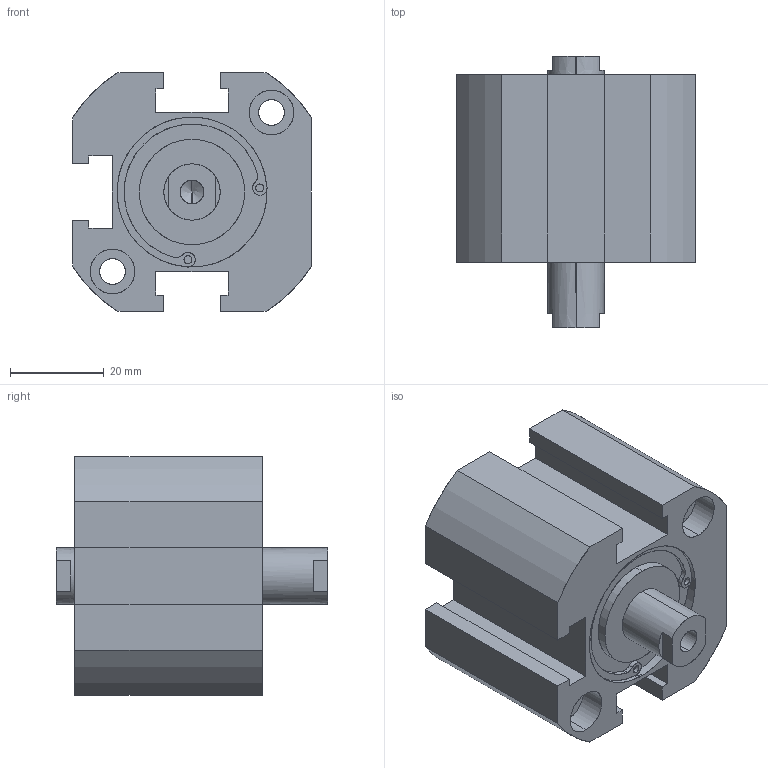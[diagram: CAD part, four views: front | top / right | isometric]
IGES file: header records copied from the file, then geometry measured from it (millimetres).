
Start section: SolidWorks IGES file using analytic representation for surfaces
Global section: file name: C:\Users\Toshiba\Desktop\XG#7-32-10.IGS; native system: SolidWorks 2014; preprocessor: SolidWorks 2014; author: Toshiba; date: 160524.095814; units: millimetre
Bounding box: 51 x 58 x 51 mm (x, y, z)
Surface area: 18266.7 mm2 (no closed solid volume)
Topology: 0 solids, 0 shells, 133 faces, 2116 edges, 2108 vertices
Faces by surface type: revolution 77, bspline 56
